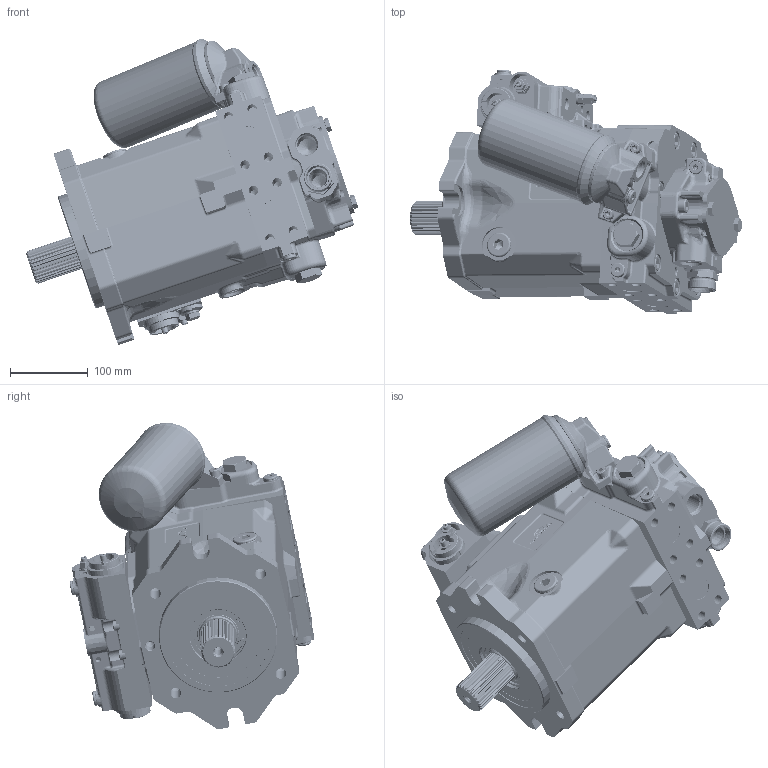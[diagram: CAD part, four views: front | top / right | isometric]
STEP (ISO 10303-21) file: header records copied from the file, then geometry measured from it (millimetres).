
FILE_DESCRIPTION(/* description */ (''),/* implementation_level */ '2;1');
FILE_NAME(/* name */ '2658055067m355.stp',/* time_stamp */ '2012-03-30T13:22:50+02:00',/* author */ (''),/* organization */ (''),/* preprocessor_version */ 'ST-DEVELOPER v11',/* originating_system */ 'SIEMENS PLM Software NX 7.5',/* authorisation */ '');
FILE_SCHEMA (('AUTOMOTIVE_DESIGN { 1 0 10303 214 1 1 1 1 }'));
Length unit declared in the file: millimetre
Products named in the file (1): 2658055067m355
Bounding box: 427.36 x 315.02 x 394.41 mm (x, y, z)
Volume: 14923685.5 mm3; surface area: 882709.2 mm2
Topology: 10 solids, 27 shells, 4814 faces, 11690 edges, 7020 vertices
Faces by surface type: plane 1452, cylinder 1263, bspline 809, cone 607, torus 300, extrusion 177, revolution 123, sphere 83
Full cylindrical faces by diameter (mm): 3 x2, 4 x3, 5 x7, 5.2 x9, 6 x9, 6.8 x4, 6.985 x1, 7 x11, 8 x13, 8.4 x2, 8.5 x6, 10 x27, 10.2 x9, 10.7 x2, 11 x9, 11.7 x3, 12 x26, 12.5 x5, 12.8 x4, 13 x6, 14 x11, 14.5 x1, 15 x5, 15.852 x4, 16 x1, 17 x9, 17.5 x1, 18 x4, 18.8 x10, 19 x1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
Entity records: 169747 total; most frequent: CARTESIAN_POINT 67716, ORIENTED_EDGE 21230, DIRECTION 20112, EDGE_CURVE 10615, AXIS2_PLACEMENT_3D 8142, VERTEX_POINT 6745, EDGE_LOOP 5652, ADVANCED_FACE 4812
